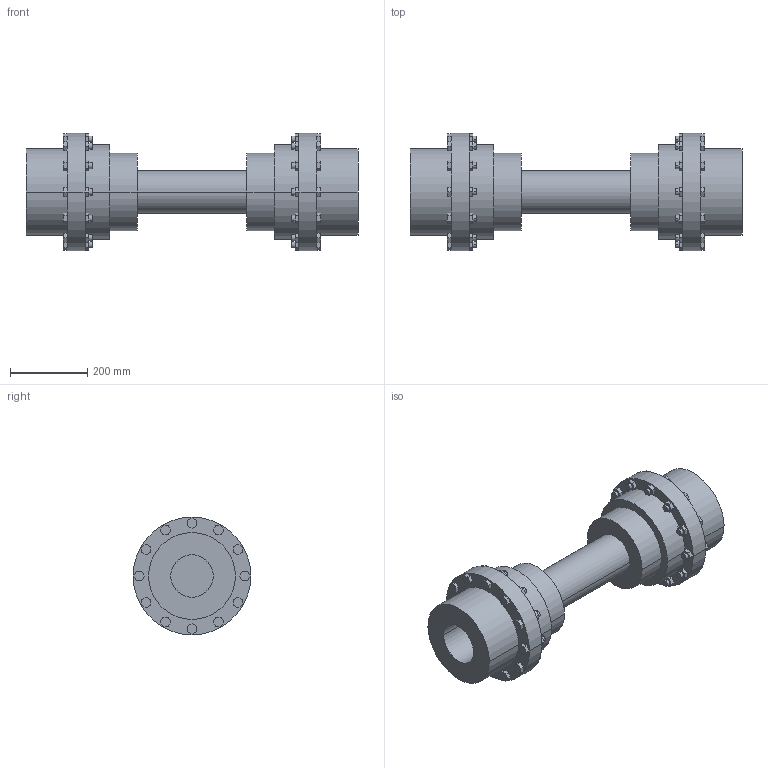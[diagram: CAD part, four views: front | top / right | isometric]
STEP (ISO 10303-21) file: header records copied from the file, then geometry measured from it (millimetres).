
FILE_DESCRIPTION((''),'2;1');
FILE_NAME('A19074700-0_ASM','2018-11-28T',('AB_Roschiwal'),('RENK AG'),'PRO/ENGINEER BY PARAMETRIC TECHNOLOGY CORPORATION, 2015440','PRO/ENGINEER BY PARAMETRIC TECHNOLOGY CORPORATION, 2015440','');
FILE_SCHEMA(('CONFIG_CONTROL_DESIGN'));
Length unit declared in the file: millimetre
Products named in the file (4): LBGK125_GEHAEUSE; LBGK125_NABE; LBGK125_WELLE; A19074700-0_ASM
Assembly tree (5 placements, depth 2):
  A19074700-0_ASM
    LBGK125_GEHAEUSE  x2
    LBGK125_NABE  x2
    LBGK125_WELLE
Bounding box: 860 x 305 x 305 mm (x, y, z)
Volume: 25934919.5 mm3; surface area: 1534876.5 mm2
Topology: 5 solids, 5 shells, 484 faces, 1158 edges, 772 vertices
Faces by surface type: plane 386, cylinder 98
Entity records: 7138 total; most frequent: CARTESIAN_POINT 1223, DIRECTION 1188, ORIENTED_EDGE 1164, EDGE_CURVE 582, VECTOR 482, LINE 482, VERTEX_POINT 388, AXIS2_PLACEMENT_3D 353
